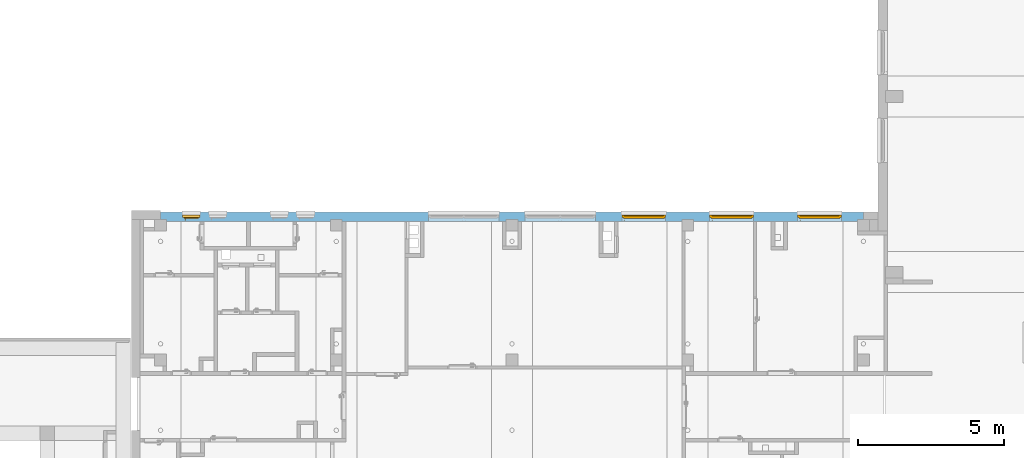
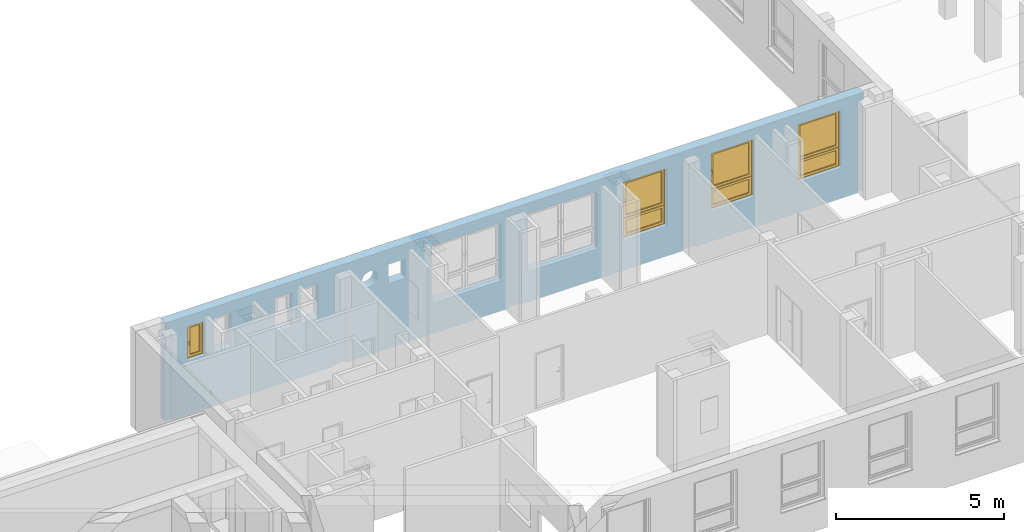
# One storey, part 16 of 50: 4 windows, 11 openings, plus 1 element that does not belong to this part.
"""IFC4 building model written with IfcOpenShell, lengths in metres."""

from ifc_helpers import new_model, entity, si_unit, converted_unit, derived_unit, frame, frame_2d, origin, origin_with_axes, place, context, subcontext, project, spatial, polyline, rectangle, outline, extrude, clip, bounded_halfspace, closed_shell, open_shell, surface_model, source, transform, mapped, material, layer, layer_set, layer_usage, element, fill, save


model = new_model("IFC4")

# Units and contexts
model_context = context("Model", 3, precision=1e-05, world=origin())
body_context = subcontext(model_context, "Body", "Model", "MODEL_VIEW")
ifc_project = project(units=[si_unit("LENGTHUNIT", "METRE"), si_unit("AREAUNIT", "SQUARE_METRE"), si_unit("VOLUMEUNIT", "CUBIC_METRE"), si_unit("MASSUNIT", "GRAM", prefix="KILO"), converted_unit("PLANEANGLEUNIT", "DEGREE", entity("IfcPlaneAngleMeasure", 0.0174532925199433), si_unit("PLANEANGLEUNIT", "RADIAN"), dimensions=[0, 0, 0, 0, 0, 0, 0]), derived_unit("THERMALTRANSMITTANCEUNIT", [(si_unit("POWERUNIT", "WATT"), 1), (si_unit("THERMODYNAMICTEMPERATUREUNIT", "KELVIN"), -1), (si_unit("LENGTHUNIT", "METRE"), -2)]), derived_unit("VOLUMETRICFLOWRATEUNIT", [(si_unit("LENGTHUNIT", "METRE"), 3), (converted_unit("TIMEUNIT", "hour", entity("IfcTimeMeasure", 3600.0), si_unit("TIMEUNIT", "SECOND"), dimensions=[0, 0, 1, 0, 0, 0, 0]), -1), (si_unit("LENGTHUNIT", "METRE"), -1)])], contexts=[model_context])

# Site, building, storey
site_placement = place(None, origin())
site = spatial("IfcSite", under=ifc_project, at=site_placement, Name="3. ASŘ", CompositionType="ELEMENT")
building_placement = place(site_placement, origin())
building = spatial("IfcBuilding", under=site, at=building_placement, Name="Pavilon C", CompositionType="ELEMENT")
storey_placement = place(building_placement, frame((0.0, 0.0, 3.6)))
storey = spatial("IfcBuildingStorey", under=building, at=storey_placement, Name="Půdorys 2.NP", CompositionType="ELEMENT", Elevation=3.6)

# Wall, openings, windows
ifc_material = material(Name="ZELEZOBETONOVÁ KCE")
ifc_layer = layer(ifc_material, 0.32)
ifc_layer_set = layer_set([ifc_layer])
ifc_layer_usage = layer_usage(ifc_layer_set, "AXIS2", "POSITIVE", 0.0)
wall_placement = place(storey_placement, frame((24.0, 15.25, -0.1), z_axis=(0.0, 0.0, 1.0), x_axis=(-1.0, 0.0, 0.0)))
wall = element("IfcWall", 1, at=wall_placement, inside=storey, material=ifc_layer_usage, Name="ZELEZOBETONOVÁ KCE", context=body_context, shape_type="Clipping", body=[
    clip(clip(clip(clip(clip(extrude(rectangle(XDim=24.0, YDim=0.32, at=frame_2d((12.0, 0.16), x_axis=(1.0, 0.0))), origin_with_axes(), (0.0, 0.0, 1.0), 3.6), bounded_halfspace(frame((23.9, 0.285000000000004, 3.35), z_axis=(0.0, 0.0, 1.0), x_axis=(1.0, 0.0, 0.0)), True, origin_with_axes(), polyline([(23.8, 0.250000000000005), (24.0, 0.250000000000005), (24.0, 0.32), (23.8, 0.320000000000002), (23.8, 0.250000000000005)]))), bounded_halfspace(frame((0.0999999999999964, 0.285000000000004, 3.35), z_axis=(0.0, 0.0, 1.0), x_axis=(1.0, 0.0, 0.0)), True, origin_with_axes(), polyline([(0.0, 0.250000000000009), (0.199999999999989, 0.250000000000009), (0.199999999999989, 0.320000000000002), (0.0, 0.32), (0.0, 0.250000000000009)]))), bounded_halfspace(frame((12.0, 0.285000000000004, 3.35), z_axis=(0.0, 0.0, 1.0), x_axis=(1.0, 0.0, 0.0)), True, origin_with_axes(), polyline([(11.8, 0.250000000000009), (12.2, 0.250000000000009), (12.2, 0.32), (11.8, 0.32), (11.8, 0.250000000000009)]))), bounded_halfspace(frame((5.99999999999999, 0.285000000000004, 3.35), z_axis=(0.0, 0.0, 1.0), x_axis=(1.0, 0.0, 0.0)), True, origin_with_axes(), polyline([(5.79999999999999, 0.250000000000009), (6.19999999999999, 0.250000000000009), (6.19999999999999, 0.32), (5.79999999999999, 0.32), (5.79999999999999, 0.250000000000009)]))), bounded_halfspace(frame((18.0, 0.285000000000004, 3.35), z_axis=(0.0, 0.0, 1.0), x_axis=(1.0, 0.0, 0.0)), True, origin_with_axes(), polyline([(17.8, 0.250000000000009), (18.2, 0.250000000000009), (18.2, 0.32), (17.8, 0.32), (17.8, 0.250000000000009)]))),
])
opening_1_placement = place(wall_placement, frame((16.7, 0.0, 2.475), z_axis=(0.0, 1.0, 0.0), x_axis=(0.0, 0.0, 1.0)))
element("IfcOpeningElement", 2, at=opening_1_placement, cuts=wall, Name="Prostup stěnou", ObjectType="Opening", context=body_context, shape_type="SweptSolid", body=[
    extrude(outline(polyline([(0.274999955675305, 0.55), (0.303745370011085, 0.548493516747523), (0.332175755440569, 0.543990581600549), (0.359979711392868, 0.536540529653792), (0.386852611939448, 0.526224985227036), (0.412500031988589, 0.5131569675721), (0.436640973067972, 0.497479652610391), (0.459010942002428, 0.479364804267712), (0.479364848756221, 0.459010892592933), (0.497479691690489, 0.436640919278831), (0.513157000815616, 0.412499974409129), (0.526225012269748, 0.38685255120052), (0.536540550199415, 0.35997964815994), (0.54399059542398, 0.332175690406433), (0.548493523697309, 0.303745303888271), (0.549999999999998, 0.274999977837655), (0.548493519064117, 0.246254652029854), (0.543990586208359, 0.217824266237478), (0.536540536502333, 0.190020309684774), (0.526224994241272, 0.163147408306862), (0.51315697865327, 0.137499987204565), (0.497479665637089, 0.113359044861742), (0.479364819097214, 0.090989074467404), (0.459010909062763, 0.0706351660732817), (0.436640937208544, 0.0525203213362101), (0.412499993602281, 0.0368430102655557), (0.386852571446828, 0.0237749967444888), (0.35997966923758, 0.0134594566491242), (0.332175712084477, 0.00600940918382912), (0.303745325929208, 0.00150647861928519), (0.274999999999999, 0.0), (0.24625467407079, 0.00150647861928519), (0.217824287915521, 0.00600940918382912), (0.190020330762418, 0.0134594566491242), (0.16314742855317, 0.0237749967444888), (0.137500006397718, 0.0368430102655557), (0.113359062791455, 0.0525203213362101), (0.0909890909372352, 0.0706351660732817), (0.0706351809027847, 0.090989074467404), (0.0525203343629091, 0.113359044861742), (0.0368430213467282, 0.137499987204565), (0.0237750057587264, 0.163147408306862), (0.0134594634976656, 0.190020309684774), (0.00600941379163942, 0.217824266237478), (0.00150648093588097, 0.246254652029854), (0.0, 0.274999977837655), (0.00150647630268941, 0.303745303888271), (0.00600940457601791, 0.332175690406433), (0.0134594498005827, 0.35997964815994), (0.0237749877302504, 0.38685255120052), (0.0368429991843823, 0.412499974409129), (0.0525203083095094, 0.436640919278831), (0.0706351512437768, 0.459010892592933), (0.0909890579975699, 0.479364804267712), (0.113359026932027, 0.497479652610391), (0.137499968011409, 0.5131569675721), (0.16314738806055, 0.526224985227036), (0.19002028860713, 0.536540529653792), (0.21782424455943, 0.543990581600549), (0.246254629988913, 0.548493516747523), (0.274999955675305, 0.55)])), origin_with_axes(), (0.0, 0.0, 1.0), 0.32),
])
opening_2_placement = place(wall_placement, frame((15.75, 0.0, 2.35), z_axis=(0.0, 1.0, 0.0), x_axis=(0.0, 0.0, 1.0)))
element("IfcOpeningElement", 3, at=opening_2_placement, cuts=wall, Name="Prostup stěnou", ObjectType="Opening", context=body_context, shape_type="SweptSolid", body=[
    extrude(outline(polyline([(0.0, 0.6), (0.7, 0.6), (0.7, 0.0), (0.0, 0.0), (0.0, 0.6)])), origin_with_axes(), (0.0, 0.0, 1.0), 0.32),
])
opening_3_placement = place(wall_placement, frame((12.45, 0.0, 1.1), z_axis=(0.0, 1.0, 0.0), x_axis=(0.0, 0.0, 1.0)))
element("IfcOpeningElement", 4, at=opening_3_placement, cuts=wall, Name="Okenní otvor", ObjectType="Opening", context=body_context, shape_type="SweptSolid", body=[
    extrude(outline(polyline([(0.0, 2.4), (2.1, 2.4), (2.1, 0.0), (0.0, 0.0), (0.0, 2.4)])), origin_with_axes(), (0.0, 0.0, 1.0), 0.32),
])
opening_4_placement = place(wall_placement, frame((9.15000000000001, 0.0, 1.1), z_axis=(0.0, 1.0, 0.0), x_axis=(0.0, 0.0, 1.0)))
element("IfcOpeningElement", 5, at=opening_4_placement, cuts=wall, Name="Okenní otvor", ObjectType="Opening", context=body_context, shape_type="SweptSolid", body=[
    extrude(outline(polyline([(0.0, 2.4), (2.1, 2.4), (2.1, 0.0), (0.0, 0.0), (0.0, 2.4)])), origin_with_axes(), (0.0, 0.0, 1.0), 0.32),
])
opening_5_placement = place(wall_placement, frame((0.750000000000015, 0.0, 1.1), z_axis=(0.0, 1.0, 0.0), x_axis=(0.0, 0.0, 1.0)))
opening_5 = element("IfcOpeningElement", 6, at=opening_5_placement, cuts=wall, Name="Okenní otvor", ObjectType="Opening", context=body_context, shape_type="SweptSolid", body=[
    extrude(outline(polyline([(0.0, 1.5), (2.1, 1.5), (2.1, 0.0), (0.0, 0.0), (0.0, 1.5)])), origin_with_axes(), (0.0, 0.0, 1.0), 0.32),
])
opening_6_placement = place(wall_placement, frame((3.75000000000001, 0.0, 1.1), z_axis=(0.0, 1.0, 0.0), x_axis=(0.0, 0.0, 1.0)))
opening_6 = element("IfcOpeningElement", 7, at=opening_6_placement, cuts=wall, Name="Okenní otvor", ObjectType="Opening", context=body_context, shape_type="SweptSolid", body=[
    extrude(outline(polyline([(0.0, 1.5), (2.1, 1.5), (2.1, 0.0), (0.0, 0.0), (0.0, 1.5)])), origin_with_axes(), (0.0, 0.0, 1.0), 0.32),
])
opening_7_placement = place(wall_placement, frame((6.75000000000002, 0.0, 1.1), z_axis=(0.0, 1.0, 0.0), x_axis=(0.0, 0.0, 1.0)))
opening_7 = element("IfcOpeningElement", 8, at=opening_7_placement, cuts=wall, Name="Okenní otvor", ObjectType="Opening", context=body_context, shape_type="SweptSolid", body=[
    extrude(outline(polyline([(0.0, 1.5), (2.1, 1.5), (2.1, 0.0), (0.0, 0.0), (0.0, 1.5)])), origin_with_axes(), (0.0, 0.0, 1.0), 0.32),
])
opening_8_placement = place(wall_placement, frame((22.65, 0.0, 1.95), z_axis=(0.0, 1.0, 0.0), x_axis=(0.0, 0.0, 1.0)))
opening_8 = element("IfcOpeningElement", 9, at=opening_8_placement, cuts=wall, Name="Okenní otvor", ObjectType="Opening", context=body_context, shape_type="SweptSolid", body=[
    extrude(outline(polyline([(0.0, 0.6), (1.25, 0.6), (1.25, 0.0), (0.0, 0.0), (0.0, 0.6)])), origin_with_axes(), (0.0, 0.0, 1.0), 0.32),
])
opening_9_placement = place(wall_placement, frame((18.75, 0.0, 1.95), z_axis=(0.0, 1.0, 0.0), x_axis=(0.0, 0.0, 1.0)))
element("IfcOpeningElement", 10, at=opening_9_placement, cuts=wall, Name="Okenní otvor", ObjectType="Opening", context=body_context, shape_type="SweptSolid", body=[
    extrude(outline(polyline([(0.0, 0.6), (1.25, 0.6), (1.25, 0.0), (0.0, 0.0), (0.0, 0.6)])), origin_with_axes(), (0.0, 0.0, 1.0), 0.32),
])
opening_10_placement = place(wall_placement, frame((19.65, 0.0, 1.95), z_axis=(0.0, 1.0, 0.0), x_axis=(0.0, 0.0, 1.0)))
element("IfcOpeningElement", 11, at=opening_10_placement, cuts=wall, Name="Okenní otvor", ObjectType="Opening", context=body_context, shape_type="SweptSolid", body=[
    extrude(outline(polyline([(0.0, 0.6), (1.25, 0.6), (1.25, 0.0), (0.0, 0.0), (0.0, 0.6)])), origin_with_axes(), (0.0, 0.0, 1.0), 0.32),
])
opening_11_placement = place(wall_placement, frame((21.75, 0.0, 1.95), z_axis=(0.0, 1.0, 0.0), x_axis=(0.0, 0.0, 1.0)))
element("IfcOpeningElement", 12, at=opening_11_placement, cuts=wall, Name="Okenní otvor", ObjectType="Opening", context=body_context, shape_type="SweptSolid", body=[
    extrude(outline(polyline([(0.0, 0.6), (1.25, 0.6), (1.25, 0.0), (0.0, 0.0), (0.0, 0.6)])), origin_with_axes(), (0.0, 0.0, 1.0), 0.32),
])
shared_shape_1 = source(origin_with_axes(), body_context, "Body", "SurfaceModel", [
    surface_model("IfcShellBasedSurfaceModel", [(0.0, 0.182, 2.1), (0.0, 0.182, -5.63337527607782e-18), (0.08, 0.182, -5.63337527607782e-18), (0.08, 0.182, 2.1), (0.0, 0.0899999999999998, 5.63337527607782e-18), (0.0, 0.0900000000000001, 2.1), (0.08, 0.0900000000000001, 2.1), (0.08, 0.0899999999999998, 5.63337527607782e-18)], [closed_shell([[[0, 1, 2, 3]], [[4, 5, 6, 7]], [[1, 0, 5, 4]], [[2, 1, 4, 7]], [[3, 2, 7, 6]], [[0, 3, 6, 5]]], orient=[[False], [False], [False], [False], [False], [False]])]),
    surface_model("IfcShellBasedSurfaceModel", [(1.42, 0.182, 2.1), (1.42, 0.182, -5.63337527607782e-18), (1.5, 0.182, -5.63337527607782e-18), (1.5, 0.182, 2.1), (1.42, 0.0899999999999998, 5.63337527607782e-18), (1.42, 0.0900000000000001, 2.1), (1.5, 0.0900000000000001, 2.1), (1.5, 0.0899999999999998, 5.63337527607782e-18)], [closed_shell([[[0, 1, 2, 3]], [[4, 5, 6, 7]], [[1, 0, 5, 4]], [[2, 1, 4, 7]], [[3, 2, 7, 6]], [[0, 3, 6, 5]]], orient=[[False], [False], [False], [False], [False], [False]])]),
    surface_model("IfcShellBasedSurfaceModel", [(0.08, 0.182, 0.08), (0.08, 0.182, -5.63337527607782e-18), (1.42, 0.182, -5.63337527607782e-18), (1.42, 0.182, 0.08), (0.08, 0.0899999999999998, 5.63337527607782e-18), (0.08, 0.0899999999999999, 0.08), (1.42, 0.0899999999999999, 0.08), (1.42, 0.0899999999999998, 5.63337527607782e-18)], [closed_shell([[[0, 1, 2, 3]], [[4, 5, 6, 7]], [[1, 0, 5, 4]], [[2, 1, 4, 7]], [[3, 2, 7, 6]], [[0, 3, 6, 5]]], orient=[[False], [False], [False], [False], [False], [False]])]),
    surface_model("IfcShellBasedSurfaceModel", [(0.08, 0.182, 2.1), (0.08, 0.182, 2.02), (1.42, 0.182, 2.02), (1.42, 0.182, 2.1), (0.08, 0.0900000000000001, 2.02), (0.08, 0.0900000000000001, 2.1), (1.42, 0.0900000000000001, 2.1), (1.42, 0.0900000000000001, 2.02)], [closed_shell([[[0, 1, 2, 3]], [[4, 5, 6, 7]], [[1, 0, 5, 4]], [[2, 1, 4, 7]], [[3, 2, 7, 6]], [[0, 3, 6, 5]]], orient=[[False], [False], [False], [False], [False], [False]])]),
    surface_model("IfcShellBasedSurfaceModel", [(0.08, 0.182, 0.76), (0.08, 0.182, 0.68), (1.42, 0.182, 0.68), (1.42, 0.182, 0.76), (0.08, 0.0899999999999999, 0.68), (0.08, 0.0899999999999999, 0.76), (1.42, 0.0899999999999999, 0.76), (1.42, 0.0899999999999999, 0.68)], [closed_shell([[[0, 1, 2, 3]], [[4, 5, 6, 7]], [[1, 0, 5, 4]], [[2, 1, 4, 7]], [[3, 2, 7, 6]], [[0, 3, 6, 5]]], orient=[[False], [False], [False], [False], [False], [False]])]),
    surface_model("IfcShellBasedSurfaceModel", [(0.05, 0.145, 0.71), (0.05, 0.145, 0.05), (0.13, 0.145, 0.05), (0.13, 0.145, 0.71), (0.05, 0.0599999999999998, 0.05), (0.05, 0.0599999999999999, 0.71), (0.13, 0.0599999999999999, 0.71), (0.13, 0.0599999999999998, 0.05)], [closed_shell([[[0, 1, 2, 3]], [[4, 5, 6, 7]], [[1, 0, 5, 4]], [[2, 1, 4, 7]], [[3, 2, 7, 6]], [[0, 3, 6, 5]]], orient=[[False], [False], [False], [False], [False], [False]])]),
    surface_model("IfcShellBasedSurfaceModel", [(1.37, 0.145, 0.71), (1.37, 0.145, 0.05), (1.45, 0.145, 0.05), (1.45, 0.145, 0.71), (1.37, 0.0599999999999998, 0.05), (1.37, 0.0599999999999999, 0.71), (1.45, 0.0599999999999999, 0.71), (1.45, 0.0599999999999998, 0.05)], [closed_shell([[[0, 1, 2, 3]], [[4, 5, 6, 7]], [[1, 0, 5, 4]], [[2, 1, 4, 7]], [[3, 2, 7, 6]], [[0, 3, 6, 5]]], orient=[[False], [False], [False], [False], [False], [False]])]),
    surface_model("IfcShellBasedSurfaceModel", [(0.13, 0.145, 0.13), (0.13, 0.145, 0.05), (1.37, 0.145, 0.05), (1.37, 0.145, 0.13), (0.13, 0.0599999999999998, 0.05), (0.13, 0.0599999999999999, 0.13), (1.37, 0.0599999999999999, 0.13), (1.37, 0.0599999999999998, 0.05)], [closed_shell([[[0, 1, 2, 3]], [[4, 5, 6, 7]], [[1, 0, 5, 4]], [[2, 1, 4, 7]], [[3, 2, 7, 6]], [[0, 3, 6, 5]]], orient=[[False], [False], [False], [False], [False], [False]])]),
    surface_model("IfcShellBasedSurfaceModel", [(0.13, 0.145, 0.71), (0.13, 0.145, 0.63), (1.37, 0.145, 0.63), (1.37, 0.145, 0.71), (0.13, 0.0599999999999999, 0.63), (0.13, 0.0599999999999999, 0.71), (1.37, 0.0599999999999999, 0.71), (1.37, 0.0599999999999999, 0.63)], [closed_shell([[[0, 1, 2, 3]], [[4, 5, 6, 7]], [[1, 0, 5, 4]], [[2, 1, 4, 7]], [[3, 2, 7, 6]], [[0, 3, 6, 5]]], orient=[[False], [False], [False], [False], [False], [False]])]),
    surface_model("IfcShellBasedSurfaceModel", [(0.05, 0.145, 2.05), (0.05, 0.145, 0.73), (0.13, 0.145, 0.73), (0.13, 0.145, 2.05), (0.05, 0.0599999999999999, 0.73), (0.05, 0.0600000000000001, 2.05), (0.13, 0.0600000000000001, 2.05), (0.13, 0.0599999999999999, 0.73)], [closed_shell([[[0, 1, 2, 3]], [[4, 5, 6, 7]], [[1, 0, 5, 4]], [[2, 1, 4, 7]], [[3, 2, 7, 6]], [[0, 3, 6, 5]]], orient=[[False], [False], [False], [False], [False], [False]])]),
    surface_model("IfcShellBasedSurfaceModel", [(1.37, 0.145, 2.05), (1.37, 0.145, 0.73), (1.45, 0.145, 0.73), (1.45, 0.145, 2.05), (1.37, 0.0599999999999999, 0.73), (1.37, 0.0600000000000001, 2.05), (1.45, 0.0600000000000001, 2.05), (1.45, 0.0599999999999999, 0.73)], [closed_shell([[[0, 1, 2, 3]], [[4, 5, 6, 7]], [[1, 0, 5, 4]], [[2, 1, 4, 7]], [[3, 2, 7, 6]], [[0, 3, 6, 5]]], orient=[[False], [False], [False], [False], [False], [False]])]),
    surface_model("IfcShellBasedSurfaceModel", [(0.13, 0.145, 0.81), (0.13, 0.145, 0.73), (1.37, 0.145, 0.73), (1.37, 0.145, 0.81), (0.13, 0.0599999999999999, 0.73), (0.13, 0.0599999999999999, 0.81), (1.37, 0.0599999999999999, 0.81), (1.37, 0.0599999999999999, 0.73)], [closed_shell([[[0, 1, 2, 3]], [[4, 5, 6, 7]], [[1, 0, 5, 4]], [[2, 1, 4, 7]], [[3, 2, 7, 6]], [[0, 3, 6, 5]]], orient=[[False], [False], [False], [False], [False], [False]])]),
    surface_model("IfcShellBasedSurfaceModel", [(0.13, 0.145, 2.05), (0.13, 0.145, 1.97), (1.37, 0.145, 1.97), (1.37, 0.145, 2.05), (0.13, 0.0600000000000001, 1.97), (0.13, 0.0600000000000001, 2.05), (1.37, 0.0600000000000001, 2.05), (1.37, 0.0600000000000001, 1.97)], [closed_shell([[[0, 1, 2, 3]], [[4, 5, 6, 7]], [[1, 0, 5, 4]], [[2, 1, 4, 7]], [[3, 2, 7, 6]], [[0, 3, 6, 5]]], orient=[[False], [False], [False], [False], [False], [False]])]),
    surface_model("IfcShellBasedSurfaceModel", [(0.0775, 0.06, 1.41), (0.0775, 0.06, 1.37), (0.1025, 0.06, 1.37), (0.1025, 0.06, 1.41), (0.0775, 0.05, 1.37), (0.0775, 0.05, 1.41), (0.1025, 0.05, 1.41), (0.1025, 0.05, 1.37)], [closed_shell([[[0, 1, 2, 3]], [[4, 5, 6, 7]], [[1, 0, 5, 4]], [[2, 1, 4, 7]], [[3, 2, 7, 6]], [[0, 3, 6, 5]]], orient=[[False], [False], [False], [False], [False], [False]])]),
    surface_model("IfcShellBasedSurfaceModel", [(0.1, 0.05, 1.39), (0.0986602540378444, 0.05, 1.395), (0.095, 0.05, 1.39866025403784), (0.09, 0.05, 1.4), (0.085, 0.05, 1.39866025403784), (0.0813397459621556, 0.05, 1.395), (0.08, 0.05, 1.39), (0.0813397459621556, 0.05, 1.385), (0.085, 0.05, 1.38133974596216), (0.09, 0.05, 1.38), (0.095, 0.05, 1.38133974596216), (0.0986602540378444, 0.05, 1.385), (0.1, 0.01, 1.39), (0.0986602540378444, 0.00500000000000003, 1.395), (0.095, 0.00133974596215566, 1.39866025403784), (0.09, 2.8421709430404e-17, 1.4), (0.085, 0.00133974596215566, 1.39866025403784), (0.0813397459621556, 0.00500000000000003, 1.395), (0.08, 0.01, 1.39), (0.0813397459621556, 0.015, 1.385), (0.085, 0.0186602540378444, 1.38133974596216), (0.09, 0.02, 1.38), (0.095, 0.0186602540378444, 1.38133974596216), (0.0986602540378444, 0.015, 1.385), (0.1, 0.01, 1.275), (0.0986602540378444, 0.005, 1.275), (0.095, 0.00133974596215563, 1.275), (0.09, 0.0, 1.275), (0.085, 0.00133974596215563, 1.275), (0.0813397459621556, 0.005, 1.275), (0.08, 0.01, 1.275), (0.0813397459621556, 0.015, 1.275), (0.085, 0.0186602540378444, 1.275), (0.09, 0.02, 1.275), (0.095, 0.0186602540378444, 1.275), (0.0986602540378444, 0.015, 1.275)], [open_shell([[[0, 1, 2, 3, 4, 5, 6, 7, 8, 9, 10, 11]], [[0, 12, 13, 1]], [[1, 13, 14, 2]], [[2, 14, 15, 3]], [[3, 15, 16, 4]], [[4, 16, 17, 5]], [[5, 17, 18, 6]], [[6, 18, 19, 7]], [[7, 19, 20, 8]], [[8, 20, 21, 9]], [[9, 21, 22, 10]], [[10, 22, 23, 11]], [[11, 23, 12, 0]], [[12, 24, 25, 13]], [[13, 25, 26, 14]], [[14, 26, 27, 15]], [[15, 27, 28, 16]], [[16, 28, 29, 17]], [[17, 29, 30, 18]], [[18, 30, 31, 19]], [[19, 31, 32, 20]], [[20, 32, 33, 21]], [[21, 33, 34, 22]], [[22, 34, 35, 23]], [[23, 35, 24, 12]]], orient=[[False], [False], [False], [False], [False], [False], [False], [False], [False], [False], [False], [False], [False], [False], [False], [False], [False], [False], [False], [False], [False], [False], [False], [False], [False]])]),
    surface_model("IfcShellBasedSurfaceModel", [(0.13, 0.1025, 0.13), (1.37, 0.1025, 0.13), (1.37, 0.1025, 0.63), (0.13, 0.1025, 0.63)], [open_shell([[[0, 1, 2, 3]]], orient=[[False]])]),
    surface_model("IfcShellBasedSurfaceModel", [(0.13, 0.1025, 0.81), (1.37, 0.1025, 0.81), (1.37, 0.1025, 1.97), (0.13, 0.1025, 1.97)], [open_shell([[[0, 1, 2, 3]]], orient=[[False]])]),
])
window_1_placement = place(opening_5_placement, frame((0.0, 1.5, 0.282000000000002), z_axis=(1.0, 0.0, 0.0), x_axis=(0.0, -1.0, 2.44929359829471e-16)))
window_1 = element("IfcWindow", 13, at=window_1_placement, inside=storey, Name="O06", OverallHeight=2.1, OverallWidth=1.5, PartitioningType="USERDEFINED", PredefinedType="WINDOW", context=body_context, shape_type="MappedRepresentation", body=[
    mapped(shared_shape_1, transform((0.0, 0.0, 0.0), x_axis=(1.0, 0.0, 0.0), y_axis=(0.0, 1.0, 0.0), z_axis=(0.0, 0.0, 1.0), scale=1.0)),
])
fill(opening_5, window_1)
window_2_placement = place(opening_6_placement, frame((0.0, 1.5, 0.282), z_axis=(1.0, 0.0, 0.0), x_axis=(0.0, -1.0, 2.44929359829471e-16)))
window_2 = element("IfcWindow", 14, at=window_2_placement, inside=storey, Name="O06", OverallHeight=2.1, OverallWidth=1.5, PartitioningType="USERDEFINED", PredefinedType="WINDOW", context=body_context, shape_type="MappedRepresentation", body=[
    mapped(shared_shape_1, transform((0.0, 0.0, 0.0), x_axis=(1.0, 0.0, 0.0), y_axis=(0.0, 1.0, 0.0), z_axis=(0.0, 0.0, 1.0), scale=1.0)),
])
fill(opening_6, window_2)
window_3_placement = place(opening_7_placement, frame((0.0, 1.5, 0.282), z_axis=(1.0, 0.0, 0.0), x_axis=(0.0, -0.999999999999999, 2.4492935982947e-16)))
window_3 = element("IfcWindow", 15, at=window_3_placement, inside=storey, Name="O06", OverallHeight=2.1, OverallWidth=1.5, PartitioningType="USERDEFINED", PredefinedType="WINDOW", context=body_context, shape_type="MappedRepresentation", body=[
    mapped(shared_shape_1, transform((0.0, 0.0, 0.0), x_axis=(1.0, 0.0, 0.0), y_axis=(0.0, 1.0, 0.0), z_axis=(0.0, 0.0, 1.0), scale=0.999999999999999)),
])
fill(opening_7, window_3)
shared_shape_2 = source(origin_with_axes(), body_context, "Body", "SurfaceModel", [
    surface_model("IfcShellBasedSurfaceModel", [(0.0, 0.182, 1.25), (0.0, 0.182, -5.63337527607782e-18), (0.08, 0.182, -5.63337527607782e-18), (0.08, 0.182, 1.25), (0.0, 0.0899999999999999, 5.63337527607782e-18), (0.0, 0.0900000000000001, 1.25), (0.08, 0.0900000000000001, 1.25), (0.08, 0.0899999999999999, 5.63337527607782e-18)], [closed_shell([[[0, 1, 2, 3]], [[4, 5, 6, 7]], [[1, 0, 5, 4]], [[2, 1, 4, 7]], [[3, 2, 7, 6]], [[0, 3, 6, 5]]], orient=[[False], [False], [False], [False], [False], [False]])]),
    surface_model("IfcShellBasedSurfaceModel", [(0.52, 0.182, 1.25), (0.52, 0.182, -5.63337527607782e-18), (0.6, 0.182, -5.63337527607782e-18), (0.6, 0.182, 1.25), (0.52, 0.0899999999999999, 5.63337527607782e-18), (0.52, 0.0900000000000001, 1.25), (0.6, 0.0900000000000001, 1.25), (0.6, 0.0899999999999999, 5.63337527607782e-18)], [closed_shell([[[0, 1, 2, 3]], [[4, 5, 6, 7]], [[1, 0, 5, 4]], [[2, 1, 4, 7]], [[3, 2, 7, 6]], [[0, 3, 6, 5]]], orient=[[False], [False], [False], [False], [False], [False]])]),
    surface_model("IfcShellBasedSurfaceModel", [(0.08, 0.182, 0.08), (0.08, 0.182, -5.63337527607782e-18), (0.52, 0.182, -5.63337527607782e-18), (0.52, 0.182, 0.08), (0.08, 0.0899999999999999, 5.63337527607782e-18), (0.08, 0.0899999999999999, 0.08), (0.52, 0.0899999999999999, 0.08), (0.52, 0.0899999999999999, 5.63337527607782e-18)], [closed_shell([[[0, 1, 2, 3]], [[4, 5, 6, 7]], [[1, 0, 5, 4]], [[2, 1, 4, 7]], [[3, 2, 7, 6]], [[0, 3, 6, 5]]], orient=[[False], [False], [False], [False], [False], [False]])]),
    surface_model("IfcShellBasedSurfaceModel", [(0.08, 0.182, 1.25), (0.08, 0.182, 1.17), (0.52, 0.182, 1.17), (0.52, 0.182, 1.25), (0.08, 0.0900000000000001, 1.17), (0.08, 0.0900000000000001, 1.25), (0.52, 0.0900000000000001, 1.25), (0.52, 0.0900000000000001, 1.17)], [closed_shell([[[0, 1, 2, 3]], [[4, 5, 6, 7]], [[1, 0, 5, 4]], [[2, 1, 4, 7]], [[3, 2, 7, 6]], [[0, 3, 6, 5]]], orient=[[False], [False], [False], [False], [False], [False]])]),
    surface_model("IfcShellBasedSurfaceModel", [(0.05, 0.145, 1.2), (0.05, 0.145, 0.05), (0.13, 0.145, 0.05), (0.13, 0.145, 1.2), (0.05, 0.0599999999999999, 0.05), (0.05, 0.0600000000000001, 1.2), (0.13, 0.0600000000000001, 1.2), (0.13, 0.0599999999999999, 0.05)], [closed_shell([[[0, 1, 2, 3]], [[4, 5, 6, 7]], [[1, 0, 5, 4]], [[2, 1, 4, 7]], [[3, 2, 7, 6]], [[0, 3, 6, 5]]], orient=[[False], [False], [False], [False], [False], [False]])]),
    surface_model("IfcShellBasedSurfaceModel", [(0.47, 0.145, 1.2), (0.47, 0.145, 0.05), (0.55, 0.145, 0.05), (0.55, 0.145, 1.2), (0.47, 0.0599999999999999, 0.05), (0.47, 0.0600000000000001, 1.2), (0.55, 0.0600000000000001, 1.2), (0.55, 0.0599999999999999, 0.05)], [closed_shell([[[0, 1, 2, 3]], [[4, 5, 6, 7]], [[1, 0, 5, 4]], [[2, 1, 4, 7]], [[3, 2, 7, 6]], [[0, 3, 6, 5]]], orient=[[False], [False], [False], [False], [False], [False]])]),
    surface_model("IfcShellBasedSurfaceModel", [(0.13, 0.145, 0.13), (0.13, 0.145, 0.05), (0.47, 0.145, 0.05), (0.47, 0.145, 0.13), (0.13, 0.0599999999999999, 0.05), (0.13, 0.0599999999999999, 0.13), (0.47, 0.0599999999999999, 0.13), (0.47, 0.0599999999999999, 0.05)], [closed_shell([[[0, 1, 2, 3]], [[4, 5, 6, 7]], [[1, 0, 5, 4]], [[2, 1, 4, 7]], [[3, 2, 7, 6]], [[0, 3, 6, 5]]], orient=[[False], [False], [False], [False], [False], [False]])]),
    surface_model("IfcShellBasedSurfaceModel", [(0.13, 0.145, 1.2), (0.13, 0.145, 1.12), (0.47, 0.145, 1.12), (0.47, 0.145, 1.2), (0.13, 0.0600000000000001, 1.12), (0.13, 0.0600000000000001, 1.2), (0.47, 0.0600000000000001, 1.2), (0.47, 0.0600000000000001, 1.12)], [closed_shell([[[0, 1, 2, 3]], [[4, 5, 6, 7]], [[1, 0, 5, 4]], [[2, 1, 4, 7]], [[3, 2, 7, 6]], [[0, 3, 6, 5]]], orient=[[False], [False], [False], [False], [False], [False]])]),
    surface_model("IfcShellBasedSurfaceModel", [(0.4975, 0.06, 0.645), (0.4975, 0.06, 0.605), (0.5225, 0.06, 0.605), (0.5225, 0.06, 0.645), (0.4975, 0.05, 0.605), (0.4975, 0.05, 0.645), (0.5225, 0.05, 0.645), (0.5225, 0.05, 0.605)], [closed_shell([[[0, 1, 2, 3]], [[4, 5, 6, 7]], [[1, 0, 5, 4]], [[2, 1, 4, 7]], [[3, 2, 7, 6]], [[0, 3, 6, 5]]], orient=[[False], [False], [False], [False], [False], [False]])]),
    surface_model("IfcShellBasedSurfaceModel", [(0.52, 0.05, 0.625), (0.518660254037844, 0.05, 0.63), (0.515, 0.05, 0.633660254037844), (0.51, 0.05, 0.635), (0.505, 0.05, 0.633660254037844), (0.501339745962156, 0.05, 0.63), (0.5, 0.05, 0.625), (0.501339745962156, 0.05, 0.62), (0.505, 0.05, 0.616339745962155), (0.51, 0.05, 0.615), (0.515, 0.05, 0.616339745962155), (0.518660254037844, 0.05, 0.62), (0.52, 0.01, 0.625), (0.518660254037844, 0.00500000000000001, 0.63), (0.515, 0.00133974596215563, 0.633660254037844), (0.51, 2.8421709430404e-17, 0.635), (0.505, 0.00133974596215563, 0.633660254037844), (0.501339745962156, 0.00500000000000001, 0.63), (0.5, 0.01, 0.625), (0.501339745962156, 0.015, 0.62), (0.505, 0.0186602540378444, 0.616339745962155), (0.51, 0.02, 0.615), (0.515, 0.0186602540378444, 0.616339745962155), (0.518660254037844, 0.015, 0.62), (0.52, 0.01, 0.51), (0.518660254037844, 0.005, 0.51), (0.515, 0.0013397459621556, 0.51), (0.51, 0.0, 0.51), (0.505, 0.0013397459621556, 0.51), (0.501339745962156, 0.005, 0.51), (0.5, 0.01, 0.51), (0.501339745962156, 0.015, 0.51), (0.505, 0.0186602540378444, 0.51), (0.51, 0.02, 0.51), (0.515, 0.0186602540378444, 0.51), (0.518660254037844, 0.015, 0.51)], [open_shell([[[0, 1, 2, 3, 4, 5, 6, 7, 8, 9, 10, 11]], [[0, 12, 13, 1]], [[1, 13, 14, 2]], [[2, 14, 15, 3]], [[3, 15, 16, 4]], [[4, 16, 17, 5]], [[5, 17, 18, 6]], [[6, 18, 19, 7]], [[7, 19, 20, 8]], [[8, 20, 21, 9]], [[9, 21, 22, 10]], [[10, 22, 23, 11]], [[11, 23, 12, 0]], [[12, 24, 25, 13]], [[13, 25, 26, 14]], [[14, 26, 27, 15]], [[15, 27, 28, 16]], [[16, 28, 29, 17]], [[17, 29, 30, 18]], [[18, 30, 31, 19]], [[19, 31, 32, 20]], [[20, 32, 33, 21]], [[21, 33, 34, 22]], [[22, 34, 35, 23]], [[23, 35, 24, 12]]], orient=[[False], [False], [False], [False], [False], [False], [False], [False], [False], [False], [False], [False], [False], [False], [False], [False], [False], [False], [False], [False], [False], [False], [False], [False], [False]])]),
    surface_model("IfcShellBasedSurfaceModel", [(0.13, 0.1025, 0.13), (0.47, 0.1025, 0.13), (0.47, 0.1025, 1.12), (0.13, 0.1025, 1.12)], [open_shell([[[0, 1, 2, 3]]], orient=[[False]])]),
])
window_4_placement = place(opening_8_placement, frame((0.0, 3.18323145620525e-15, 0.282), z_axis=(1.0, 0.0, 0.0), x_axis=(0.0, 1.0, -2.44929359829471e-16)))
window_4 = element("IfcWindow", 16, at=window_4_placement, inside=storey, Name="O06", OverallHeight=1.25, OverallWidth=0.6, PartitioningType="USERDEFINED", PredefinedType="WINDOW", context=body_context, shape_type="MappedRepresentation", body=[
    mapped(shared_shape_2, transform((0.0, 0.0, 0.0), x_axis=(1.0, 0.0, 0.0), y_axis=(0.0, -1.0, 0.0), z_axis=(0.0, 0.0, 1.0), scale=1.0)),
])
fill(opening_8, window_4)

save(model, "model.ifc")
